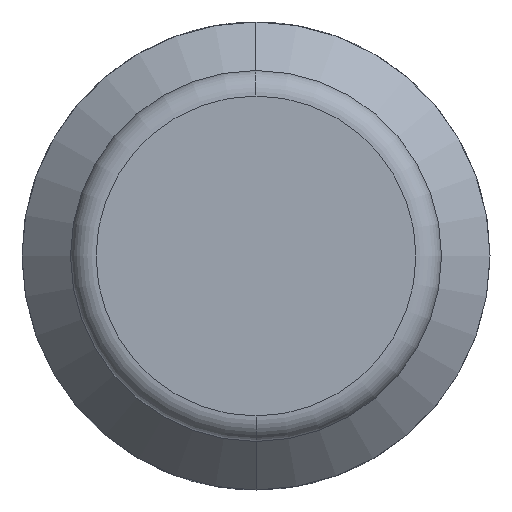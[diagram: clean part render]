
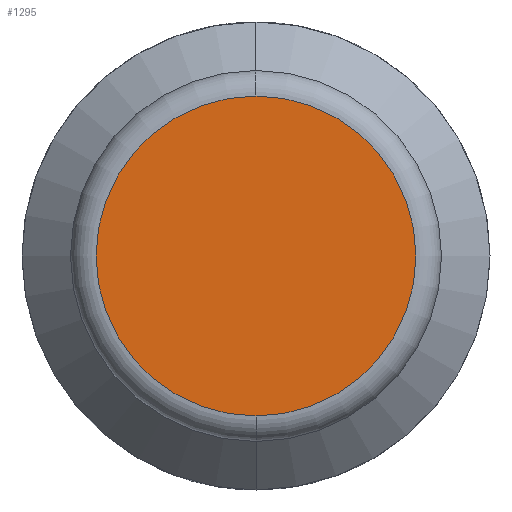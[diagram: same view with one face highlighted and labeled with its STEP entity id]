
A CAD part, left-side view. The second image highlights one B-rep face of the part: STEP entity #1295.
In plain terms, the highlighted planar face has unit normal (-1, 0, 0).
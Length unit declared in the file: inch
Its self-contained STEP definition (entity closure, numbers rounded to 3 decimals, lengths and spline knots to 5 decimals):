
#461 = DIRECTION ( 'NONE',  ( 0., 0., 1. ) ) ;
#462 = DIRECTION ( 'NONE',  ( -1., 0., 0. ) ) ;
#463 = CARTESIAN_POINT ( 'NONE',  ( -2.6335, 0., 0. ) ) ;
#464 = AXIS2_PLACEMENT_3D ( 'NONE', #463, #462, #461 ) ;
#465 = CIRCLE ( 'NONE', #464, 0.188 ) ;
#467 = DIRECTION ( 'NONE',  ( 0., 0., 1. ) ) ;
#468 = DIRECTION ( 'NONE',  ( -1., 0., 0. ) ) ;
#469 = CARTESIAN_POINT ( 'NONE',  ( -2.6335, 0., 0. ) ) ;
#470 = AXIS2_PLACEMENT_3D ( 'NONE', #469, #468, #467 ) ;
#471 = PLANE ( 'NONE',  #470 ) ;
#472 = FACE_OUTER_BOUND ( 'NONE', #1296, .T. ) ;
#489 = CARTESIAN_POINT ( 'NONE',  ( -2.6335, 0., 0.188 ) ) ;
#490 = DIRECTION ( 'NONE',  ( 0., 0., 1. ) ) ;
#491 = DIRECTION ( 'NONE',  ( -1., 0., 0. ) ) ;
#492 = CARTESIAN_POINT ( 'NONE',  ( -2.6335, 0., 0. ) ) ;
#493 = AXIS2_PLACEMENT_3D ( 'NONE', #492, #491, #490 ) ;
#494 = CIRCLE ( 'NONE', #493, 0.188 ) ;
#558 = CARTESIAN_POINT ( 'NONE',  ( -2.6335, 0., -0.188 ) ) ;
#1295 = ADVANCED_FACE ( 'NONE', ( #472 ), #471, .T. ) ;
#1296 = EDGE_LOOP ( 'NONE', ( #1297, #1298 ) ) ;
#1297 = ORIENTED_EDGE ( 'NONE', *, *, #1306, .T. ) ;
#1298 = ORIENTED_EDGE ( 'NONE', *, *, #1299, .T. ) ;
#1299 = EDGE_CURVE ( 'NONE', #1334, #1307, #465, .T. ) ;
#1306 = EDGE_CURVE ( 'NONE', #1307, #1334, #494, .T. ) ;
#1307 = VERTEX_POINT ( 'NONE', #489 ) ;
#1334 = VERTEX_POINT ( 'NONE', #558 ) ;
